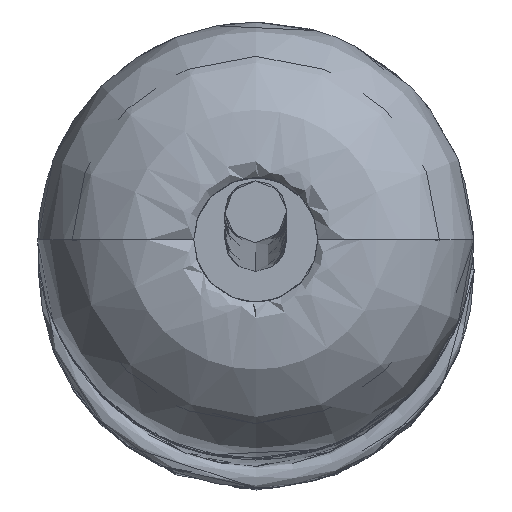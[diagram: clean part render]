
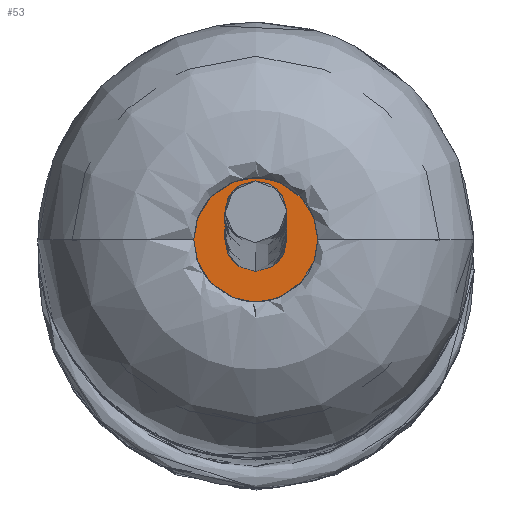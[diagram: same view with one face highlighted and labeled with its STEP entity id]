
A CAD part, top view. The second image highlights one B-rep face of the part: STEP entity #53.
In plain terms, the highlighted free-form (B-spline) face has degree [1, 1] with [2, 2] control points.
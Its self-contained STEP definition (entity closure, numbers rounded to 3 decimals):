
#53=ADVANCED_FACE('',(#81),#721,.T.);
#81=FACE_OUTER_BOUND('',#111,.T.);
#111=EDGE_LOOP('',(#203,#204));
#203=ORIENTED_EDGE('',*,*,#607,.T.);
#204=ORIENTED_EDGE('',*,*,#608,.T.);
#303=B_SPLINE_CURVE_WITH_KNOTS('',1,(#1891,#1892),.UNSPECIFIED.,.F.,.F.,
(2,2),(-29.845,0.),.UNSPECIFIED.);
#309=B_SPLINE_CURVE_WITH_KNOTS('',1,(#1903,#1904),.UNSPECIFIED.,.F.,.F.,
(2,2),(-59.69,-29.845),.UNSPECIFIED.);
#401=PCURVE('',#721,#501);
#402=PCURVE('',#721,#502);
#405=PCURVE('',#715,#505);
#409=PCURVE('',#716,#509);
#501=DEFINITIONAL_REPRESENTATION('',(#658),#1912);
#502=DEFINITIONAL_REPRESENTATION('',(#660),#1912);
#505=DEFINITIONAL_REPRESENTATION('',(#303),#1912);
#509=DEFINITIONAL_REPRESENTATION('',(#309),#1912);
#557=SURFACE_CURVE('',#657,(#401,#409),.PCURVE_S1.);
#558=SURFACE_CURVE('',#659,(#402,#405),.PCURVE_S1.);
#607=EDGE_CURVE('',#691,#692,#557,.T.);
#608=EDGE_CURVE('',#692,#691,#558,.T.);
#657=(
BOUNDED_CURVE()
B_SPLINE_CURVE(2,(#1851,#1852,#1853,#1854,#1855),.UNSPECIFIED.,.F.,.F.)
B_SPLINE_CURVE_WITH_KNOTS((3,2,3),(-59.69,-44.768,
-29.845),.UNSPECIFIED.)
CURVE()
GEOMETRIC_REPRESENTATION_ITEM()
RATIONAL_B_SPLINE_CURVE((1.,0.707,1.,0.707,1.))
REPRESENTATION_ITEM('')
);
#658=(
BOUNDED_CURVE()
B_SPLINE_CURVE(2,(#1856,#1857,#1858,#1859,#1860),.UNSPECIFIED.,.F.,.F.)
B_SPLINE_CURVE_WITH_KNOTS((3,2,3),(-59.69,-44.768,
-29.845),.UNSPECIFIED.)
CURVE()
GEOMETRIC_REPRESENTATION_ITEM()
RATIONAL_B_SPLINE_CURVE((1.,0.707,1.,0.707,1.))
REPRESENTATION_ITEM('')
);
#659=(
BOUNDED_CURVE()
B_SPLINE_CURVE(2,(#1861,#1862,#1863,#1864,#1865),.UNSPECIFIED.,.F.,.F.)
B_SPLINE_CURVE_WITH_KNOTS((3,2,3),(-29.845,-14.923,0.),
 .UNSPECIFIED.)
CURVE()
GEOMETRIC_REPRESENTATION_ITEM()
RATIONAL_B_SPLINE_CURVE((1.,0.707,1.,0.707,1.))
REPRESENTATION_ITEM('')
);
#660=(
BOUNDED_CURVE()
B_SPLINE_CURVE(2,(#1866,#1867,#1868,#1869,#1870),.UNSPECIFIED.,.F.,.F.)
B_SPLINE_CURVE_WITH_KNOTS((3,2,3),(-29.845,-14.923,0.),
 .UNSPECIFIED.)
CURVE()
GEOMETRIC_REPRESENTATION_ITEM()
RATIONAL_B_SPLINE_CURVE((1.,0.707,1.,0.707,1.))
REPRESENTATION_ITEM('')
);
#691=VERTEX_POINT('',#1847);
#692=VERTEX_POINT('',#1848);
#715=(
BOUNDED_SURFACE()
B_SPLINE_SURFACE(2,1,((#1827,#1828),(#1829,#1830),(#1831,#1832),(#1833,
#1834),(#1835,#1836)),.UNSPECIFIED.,.F.,.F.,.F.)
B_SPLINE_SURFACE_WITH_KNOTS((3,2,3),(2,2),(0.,14.923,29.845),
(0.,900.),.UNSPECIFIED.)
GEOMETRIC_REPRESENTATION_ITEM()
RATIONAL_B_SPLINE_SURFACE(((1.,1.),(0.707,0.707),
(1.,1.),(0.707,0.707),(1.,1.)))
REPRESENTATION_ITEM('')
SURFACE()
);
#716=(
BOUNDED_SURFACE()
B_SPLINE_SURFACE(2,1,((#1837,#1838),(#1839,#1840),(#1841,#1842),(#1843,
#1844),(#1845,#1846)),.UNSPECIFIED.,.F.,.F.,.F.)
B_SPLINE_SURFACE_WITH_KNOTS((3,2,3),(2,2),(29.845,44.768,
59.69),(0.,900.),.UNSPECIFIED.)
GEOMETRIC_REPRESENTATION_ITEM()
RATIONAL_B_SPLINE_SURFACE(((1.,1.),(0.707,0.707),
(1.,1.),(0.707,0.707),(1.,1.)))
REPRESENTATION_ITEM('')
SURFACE()
);
#721=B_SPLINE_SURFACE_WITH_KNOTS('',1,1,((#1819,#1820),(#1821,#1822)),
 .UNSPECIFIED.,.F.,.F.,.F.,(2,2),(2,2),(-9.69,9.69),
(-9.69,9.69),.UNSPECIFIED.);
#1819=CARTESIAN_POINT('',(2272.557,17.537,987.218));
#1820=CARTESIAN_POINT('',(2284.347,32.918,987.218));
#1821=CARTESIAN_POINT('',(2287.939,5.747,987.218));
#1822=CARTESIAN_POINT('',(2299.728,21.129,987.218));
#1827=CARTESIAN_POINT('',(2291.922,26.873,987.218));
#1828=CARTESIAN_POINT('',(2291.922,26.873,-95.609));
#1829=CARTESIAN_POINT('',(2299.462,21.094,987.218));
#1830=CARTESIAN_POINT('',(2299.462,21.094,-95.609));
#1831=CARTESIAN_POINT('',(2293.683,13.554,987.218));
#1832=CARTESIAN_POINT('',(2293.683,13.554,-95.609));
#1833=CARTESIAN_POINT('',(2287.904,6.014,987.218));
#1834=CARTESIAN_POINT('',(2287.904,6.014,-95.609));
#1835=CARTESIAN_POINT('',(2280.364,11.793,987.218));
#1836=CARTESIAN_POINT('',(2280.364,11.793,-95.609));
#1837=CARTESIAN_POINT('',(2280.364,11.793,987.218));
#1838=CARTESIAN_POINT('',(2280.364,11.793,-95.609));
#1839=CARTESIAN_POINT('',(2272.824,17.572,987.218));
#1840=CARTESIAN_POINT('',(2272.824,17.572,-95.609));
#1841=CARTESIAN_POINT('',(2278.603,25.112,987.218));
#1842=CARTESIAN_POINT('',(2278.603,25.112,-95.609));
#1843=CARTESIAN_POINT('',(2284.382,32.652,987.218));
#1844=CARTESIAN_POINT('',(2284.382,32.652,-95.609));
#1845=CARTESIAN_POINT('',(2291.922,26.873,987.218));
#1846=CARTESIAN_POINT('',(2291.922,26.873,-95.609));
#1847=CARTESIAN_POINT('',(2291.922,26.873,987.218));
#1848=CARTESIAN_POINT('',(2280.364,11.793,987.218));
#1851=CARTESIAN_POINT('',(2291.922,26.873,987.218));
#1852=CARTESIAN_POINT('',(2284.382,32.652,987.218));
#1853=CARTESIAN_POINT('',(2278.603,25.112,987.218));
#1854=CARTESIAN_POINT('',(2272.824,17.572,987.218));
#1855=CARTESIAN_POINT('',(2280.364,11.793,987.218));
#1856=CARTESIAN_POINT('',(0.,9.5));
#1857=CARTESIAN_POINT('',(-9.5,9.5));
#1858=CARTESIAN_POINT('',(-9.5,0.));
#1859=CARTESIAN_POINT('',(-9.5,-9.5));
#1860=CARTESIAN_POINT('',(0.,-9.5));
#1861=CARTESIAN_POINT('',(2280.364,11.793,987.218));
#1862=CARTESIAN_POINT('',(2287.904,6.014,987.218));
#1863=CARTESIAN_POINT('',(2293.683,13.554,987.218));
#1864=CARTESIAN_POINT('',(2299.462,21.094,987.218));
#1865=CARTESIAN_POINT('',(2291.922,26.873,987.218));
#1866=CARTESIAN_POINT('',(0.,-9.5));
#1867=CARTESIAN_POINT('',(9.5,-9.5));
#1868=CARTESIAN_POINT('',(9.5,0.));
#1869=CARTESIAN_POINT('',(9.5,9.5));
#1870=CARTESIAN_POINT('',(0.,9.5));
#1891=CARTESIAN_POINT('',(29.845,0.));
#1892=CARTESIAN_POINT('',(0.,0.));
#1903=CARTESIAN_POINT('',(59.69,0.));
#1904=CARTESIAN_POINT('',(29.845,0.));
#1912=(
GEOMETRIC_REPRESENTATION_CONTEXT(2)
PARAMETRIC_REPRESENTATION_CONTEXT()
REPRESENTATION_CONTEXT('pspace','')
);
